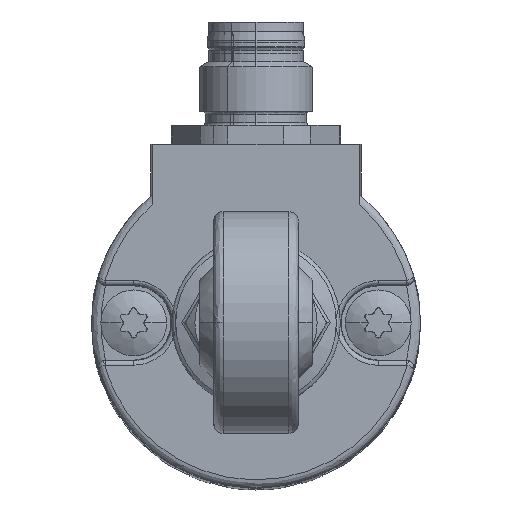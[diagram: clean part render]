
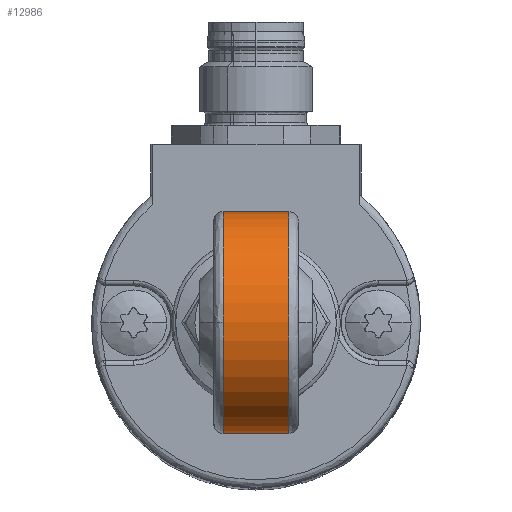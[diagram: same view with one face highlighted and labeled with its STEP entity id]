
A CAD part, top view. The second image highlights one B-rep face of the part: STEP entity #12986.
In plain terms, the highlighted cylindrical face has radius 11.8 mm (diameter 23.6 mm), a partial arc.
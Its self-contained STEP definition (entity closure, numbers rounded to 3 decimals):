
#12848 = EDGE_CURVE ( 'NONE', #12850, #12851, #15780, .T. ) ;
#12850 = VERTEX_POINT ( 'NONE', #15881 ) ;
#12851 = VERTEX_POINT ( 'NONE', #15878 ) ;
#12986 = ADVANCED_FACE ( 'NONE', ( #16947 ), #17020, .T. ) ;
#12987 = EDGE_LOOP ( 'NONE', ( #12988, #13069, #13074, #13078, #13080 ) ) ;
#12988 = ORIENTED_EDGE ( 'NONE', *, *, #12989, .F. ) ;
#12989 = EDGE_CURVE ( 'NONE', #12990, #12991, #17014, .T. ) ;
#12990 = VERTEX_POINT ( 'NONE', #16994 ) ;
#12991 = VERTEX_POINT ( 'NONE', #16992 ) ;
#13069 = ORIENTED_EDGE ( 'NONE', *, *, #13071, .F. ) ;
#13071 = EDGE_CURVE ( 'NONE', #13073, #12990, #17858, .T. ) ;
#13073 = VERTEX_POINT ( 'NONE', #18014 ) ;
#13074 = ORIENTED_EDGE ( 'NONE', *, *, #13076, .T. ) ;
#13076 = EDGE_CURVE ( 'NONE', #13073, #12851, #18009, .T. ) ;
#13078 = ORIENTED_EDGE ( 'NONE', *, *, #12848, .F. ) ;
#13080 = ORIENTED_EDGE ( 'NONE', *, *, #13081, .T. ) ;
#13081 = EDGE_CURVE ( 'NONE', #12850, #12991, #18002, .T. ) ;
#15765 = DIRECTION ( 'NONE',  ( 1., 0., 0. ) ) ;
#15767 = CARTESIAN_POINT ( 'NONE',  ( 3.608, 0.215, 175.85 ) ) ;
#15768 = AXIS2_PLACEMENT_3D ( 'NONE', #15767, #15765, #15882 ) ;
#15780 = CIRCLE ( 'NONE', #15768, 11.8 ) ;
#15878 = CARTESIAN_POINT ( 'NONE',  ( 3.608, -9.161, 168.686 ) ) ;
#15881 = CARTESIAN_POINT ( 'NONE',  ( 3.608, 9.591, 168.686 ) ) ;
#15882 = DIRECTION ( 'NONE',  ( 0., 1., 0. ) ) ;
#16947 = FACE_OUTER_BOUND ( 'NONE', #12987, .T. ) ;
#16992 = CARTESIAN_POINT ( 'NONE',  ( -3.392, 9.591, 168.686 ) ) ;
#16994 = CARTESIAN_POINT ( 'NONE',  ( -3.392, 0.215, 187.65 ) ) ;
#16996 = DIRECTION ( 'NONE',  ( 0., 0., -1. ) ) ;
#16998 = DIRECTION ( 'NONE',  ( -1., 0., 0. ) ) ;
#16999 = CARTESIAN_POINT ( 'NONE',  ( -3.392, 0.215, 175.85 ) ) ;
#17001 = AXIS2_PLACEMENT_3D ( 'NONE', #16999, #16998, #16996 ) ;
#17008 = DIRECTION ( 'NONE',  ( 0., 0., -1. ) ) ;
#17010 = DIRECTION ( 'NONE',  ( 1., 0., 0. ) ) ;
#17011 = CARTESIAN_POINT ( 'NONE',  ( -3.392, 0.215, 175.85 ) ) ;
#17013 = AXIS2_PLACEMENT_3D ( 'NONE', #17011, #17010, #17008 ) ;
#17014 = CIRCLE ( 'NONE', #17001, 11.8 ) ;
#17020 = CYLINDRICAL_SURFACE ( 'NONE', #17013, 11.8 ) ;
#17856 = AXIS2_PLACEMENT_3D ( 'NONE', #17959, #18018, #18016 ) ;
#17858 = CIRCLE ( 'NONE', #17856, 11.8 ) ;
#17959 = CARTESIAN_POINT ( 'NONE',  ( -3.392, 0.215, 175.85 ) ) ;
#17994 = DIRECTION ( 'NONE',  ( -1., 0., 0. ) ) ;
#17996 = VECTOR ( 'NONE', #17994, 1000. ) ;
#17998 = CARTESIAN_POINT ( 'NONE',  ( 0.108, 9.591, 168.686 ) ) ;
#18002 = LINE ( 'NONE', #17998, #17996 ) ;
#18005 = DIRECTION ( 'NONE',  ( 1., 0., 0. ) ) ;
#18007 = VECTOR ( 'NONE', #18005, 1000. ) ;
#18008 = CARTESIAN_POINT ( 'NONE',  ( 0.108, -9.161, 168.686 ) ) ;
#18009 = LINE ( 'NONE', #18008, #18007 ) ;
#18014 = CARTESIAN_POINT ( 'NONE',  ( -3.392, -9.161, 168.686 ) ) ;
#18016 = DIRECTION ( 'NONE',  ( 0., 0., -1. ) ) ;
#18018 = DIRECTION ( 'NONE',  ( -1., 0., 0. ) ) ;
